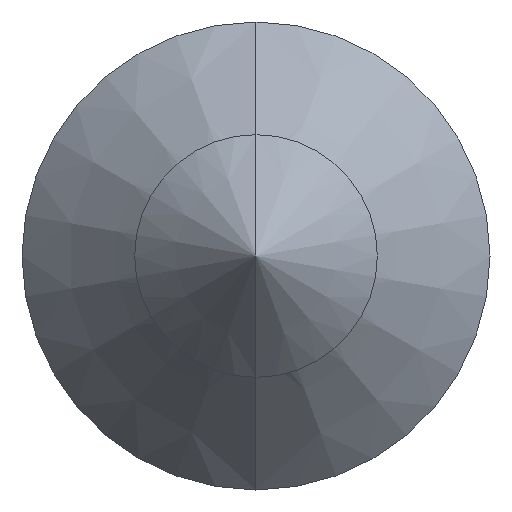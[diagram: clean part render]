
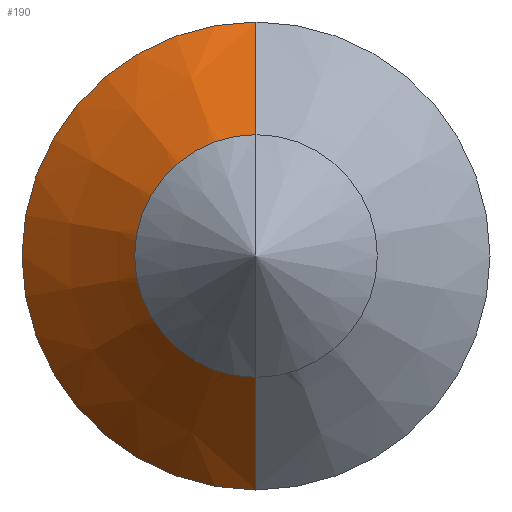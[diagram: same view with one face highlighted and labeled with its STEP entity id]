
A CAD part, left-side view. The second image highlights one B-rep face of the part: STEP entity #190.
In plain terms, the highlighted conical face has half-angle 43.025 degrees and reference radius 2.7 mm.
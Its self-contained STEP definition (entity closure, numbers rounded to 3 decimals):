
#145 = DIRECTION ( 'NONE',  ( 0., 0., 1. ) ) ;
#190 = ADVANCED_FACE ( 'NONE', ( #2084 ), #1375, .T. ) ;
#251 = DIRECTION ( 'NONE',  ( 0., 0., 1. ) ) ;
#297 = ORIENTED_EDGE ( 'NONE', *, *, #1254, .T. ) ;
#371 = EDGE_CURVE ( 'NONE', #1261, #1263, #2007, .T. ) ;
#453 = AXIS2_PLACEMENT_3D ( 'NONE', #1789, #1077, #251 ) ;
#461 = DIRECTION ( 'NONE',  ( 0., 0., -1. ) ) ;
#482 = CARTESIAN_POINT ( 'NONE',  ( -6.145, 0., -1.1 ) ) ;
#530 = DIRECTION ( 'NONE',  ( 0.731, 0., 0.682 ) ) ;
#599 = EDGE_LOOP ( 'NONE', ( #1203, #1949, #297, #1545 ) ) ;
#635 = CARTESIAN_POINT ( 'NONE',  ( -4.431, 0., 0. ) ) ;
#648 = EDGE_CURVE ( 'NONE', #1263, #1575, #1656, .T. ) ;
#748 = CARTESIAN_POINT ( 'NONE',  ( -4.431, 0., -2.7 ) ) ;
#764 = CARTESIAN_POINT ( 'NONE',  ( -4.431, 0., 2.7 ) ) ;
#816 = VECTOR ( 'NONE', #530, 1000. ) ;
#822 = DIRECTION ( 'NONE',  ( -1., 0., 0. ) ) ;
#861 = LINE ( 'NONE', #1809, #816 ) ;
#1061 = VERTEX_POINT ( 'NONE', #764 ) ;
#1071 = CARTESIAN_POINT ( 'NONE',  ( -4.431, 0., -2.7 ) ) ;
#1072 = VECTOR ( 'NONE', #1367, 1000. ) ;
#1077 = DIRECTION ( 'NONE',  ( -1., 0., 0. ) ) ;
#1167 = CIRCLE ( 'NONE', #1275, 2.7 ) ;
#1203 = ORIENTED_EDGE ( 'NONE', *, *, #371, .F. ) ;
#1254 = EDGE_CURVE ( 'NONE', #1061, #1575, #1167, .T. ) ;
#1261 = VERTEX_POINT ( 'NONE', #1580 ) ;
#1263 = VERTEX_POINT ( 'NONE', #482 ) ;
#1275 = AXIS2_PLACEMENT_3D ( 'NONE', #2110, #822, #145 ) ;
#1329 = AXIS2_PLACEMENT_3D ( 'NONE', #635, #1783, #461 ) ;
#1367 = DIRECTION ( 'NONE',  ( 0.731, 0., -0.682 ) ) ;
#1375 = CONICAL_SURFACE ( 'NONE', #1329, 2.7, 0.751 ) ;
#1545 = ORIENTED_EDGE ( 'NONE', *, *, #648, .F. ) ;
#1575 = VERTEX_POINT ( 'NONE', #748 ) ;
#1580 = CARTESIAN_POINT ( 'NONE',  ( -6.145, 0., 1.1 ) ) ;
#1656 = LINE ( 'NONE', #1071, #1072 ) ;
#1748 = EDGE_CURVE ( 'NONE', #1261, #1061, #861, .T. ) ;
#1783 = DIRECTION ( 'NONE',  ( 1., 0., 0. ) ) ;
#1789 = CARTESIAN_POINT ( 'NONE',  ( -6.145, 0., 0. ) ) ;
#1809 = CARTESIAN_POINT ( 'NONE',  ( -4.431, 0., 2.7 ) ) ;
#1949 = ORIENTED_EDGE ( 'NONE', *, *, #1748, .T. ) ;
#2007 = CIRCLE ( 'NONE', #453, 1.1 ) ;
#2084 = FACE_OUTER_BOUND ( 'NONE', #599, .T. ) ;
#2110 = CARTESIAN_POINT ( 'NONE',  ( -4.431, 0., 0. ) ) ;
